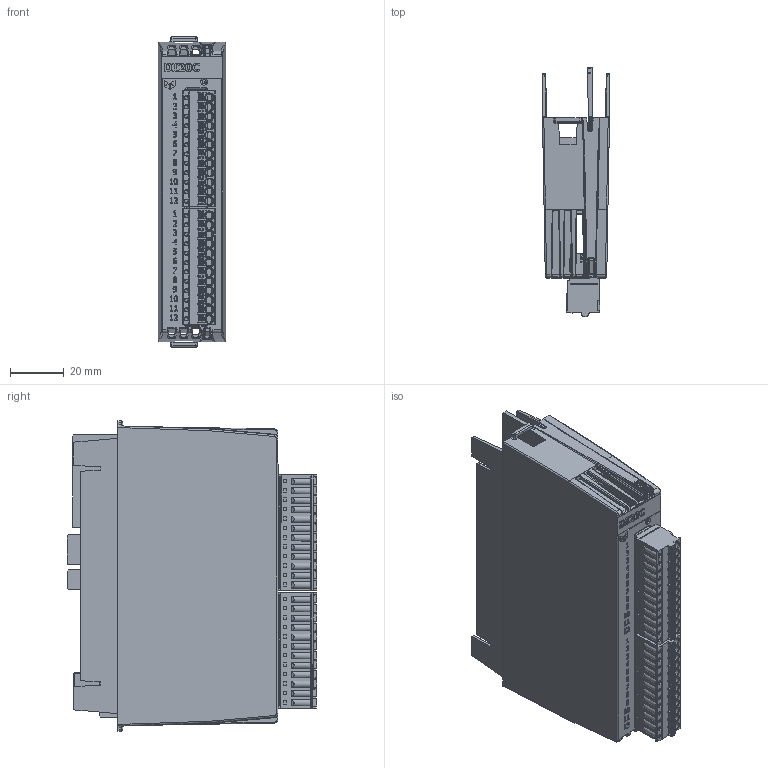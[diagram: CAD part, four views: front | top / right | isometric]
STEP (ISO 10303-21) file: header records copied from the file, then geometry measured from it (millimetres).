
FILE_DESCRIPTION(/* description */ (''),/* implementation_level */ '2;1');
FILE_NAME(/* name */ 'C:\Users\Public\Documents\Autodesk\Inventor 2023\DI20C_Simplified.stp',/* time_stamp */ '2024-10-15T21:03:39+02:00',/* author */ ('shoma'),/* organization */ (''),/* preprocessor_version */ 'ST-DEVELOPER v19',/* originating_system */ 'Autodesk Inventor 2023',/* authorisation */ '');
FILE_SCHEMA (('AUTOMOTIVE_DESIGN { 1 0 10303 214 3 1 1 }'));
Products named in the file (1): DI20C_Simplified
Bounding box: 24.95 x 92.98 x 115.5 mm (x, y, z)
Volume: 132666.3 mm3; surface area: 67327.7 mm2
Topology: 1 solids, 49 shells, 6372 faces, 16878 edges, 10805 vertices
Faces by surface type: plane 4201, cylinder 1335, bspline 572, cone 217, torus 25, sphere 22
Full cylindrical faces by diameter (mm): 0.296 x2, 0.3 x116, 0.457 x2, 1.17 x24, 1.2 x24, 1.25 x24, 1.3 x24, 1.6 x24, 2.5 x1, 3.1 x24
Entity records: 217776 total; most frequent: CARTESIAN_POINT 54045, ORIENTED_EDGE 33702, DIRECTION 30666, EDGE_CURVE 16851, LINE 12404, VECTOR 12404, VERTEX_POINT 10805, AXIS2_PLACEMENT_3D 9131
